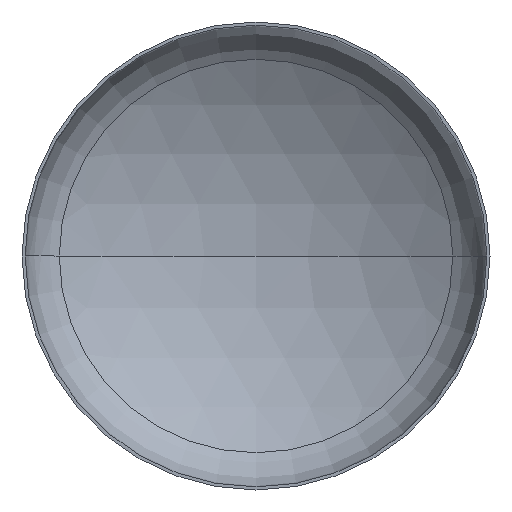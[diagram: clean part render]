
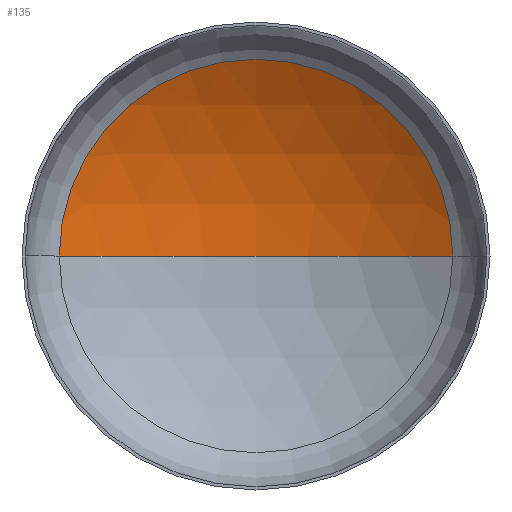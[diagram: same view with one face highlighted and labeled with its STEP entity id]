
A CAD part, front view. The second image highlights one B-rep face of the part: STEP entity #135.
In plain terms, the highlighted spherical face has radius 4400 mm.
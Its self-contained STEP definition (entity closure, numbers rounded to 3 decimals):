
#19 = CARTESIAN_POINT ( 'NONE',  ( 0., 838.943, 0. ) ) ;
#39 = VERTEX_POINT ( 'NONE', #237 ) ;
#53 = EDGE_CURVE ( 'NONE', #268, #281, #94, .T. ) ;
#62 = ORIENTED_EDGE ( 'NONE', *, *, #53, .F. ) ;
#82 = AXIS2_PLACEMENT_3D ( 'NONE', #109, #134, #123 ) ;
#84 = SPHERICAL_SURFACE ( 'NONE', #98, 4400. ) ;
#94 = CIRCLE ( 'NONE', #327, 4400. ) ;
#95 = DIRECTION ( 'NONE',  ( -1., 0., 0. ) ) ;
#98 = AXIS2_PLACEMENT_3D ( 'NONE', #138, #254, #95 ) ;
#109 = CARTESIAN_POINT ( 'NONE',  ( 0., -2904.665, 0. ) ) ;
#123 = DIRECTION ( 'NONE',  ( -1., 0., 0. ) ) ;
#134 = DIRECTION ( 'NONE',  ( 0., 0., -1. ) ) ;
#135 = ADVANCED_FACE ( 'NONE', ( #384 ), #84, .F. ) ;
#138 = CARTESIAN_POINT ( 'NONE',  ( 0., -2904.665, 0. ) ) ;
#141 = EDGE_CURVE ( 'NONE', #268, #39, #303, .T. ) ;
#179 = ORIENTED_EDGE ( 'NONE', *, *, #141, .T. ) ;
#207 = CIRCLE ( 'NONE', #320, 2312.011 ) ;
#211 = ORIENTED_EDGE ( 'NONE', *, *, #239, .T. ) ;
#213 = EDGE_LOOP ( 'NONE', ( #62, #179, #211 ) ) ;
#214 = CARTESIAN_POINT ( 'NONE',  ( 0., 1495.335, 0. ) ) ;
#237 = CARTESIAN_POINT ( 'NONE',  ( 2312.011, 838.943, 0. ) ) ;
#239 = EDGE_CURVE ( 'NONE', #39, #281, #207, .T. ) ;
#254 = DIRECTION ( 'NONE',  ( 0., 0., -1. ) ) ;
#267 = CARTESIAN_POINT ( 'NONE',  ( -2312.011, 838.943, 0. ) ) ;
#268 = VERTEX_POINT ( 'NONE', #214 ) ;
#281 = VERTEX_POINT ( 'NONE', #267 ) ;
#284 = DIRECTION ( 'NONE',  ( 1., 0., 0. ) ) ;
#287 = DIRECTION ( 'NONE',  ( 0., 0., 1. ) ) ;
#291 = CARTESIAN_POINT ( 'NONE',  ( 0., -2904.665, 0. ) ) ;
#303 = CIRCLE ( 'NONE', #82, 4400. ) ;
#320 = AXIS2_PLACEMENT_3D ( 'NONE', #19, #397, #368 ) ;
#327 = AXIS2_PLACEMENT_3D ( 'NONE', #291, #287, #284 ) ;
#368 = DIRECTION ( 'NONE',  ( 1., 0., 0. ) ) ;
#384 = FACE_OUTER_BOUND ( 'NONE', #213, .T. ) ;
#397 = DIRECTION ( 'NONE',  ( 0., -1., 0. ) ) ;
